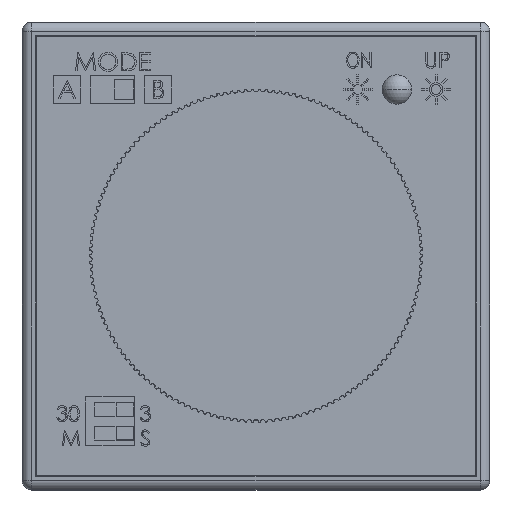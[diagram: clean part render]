
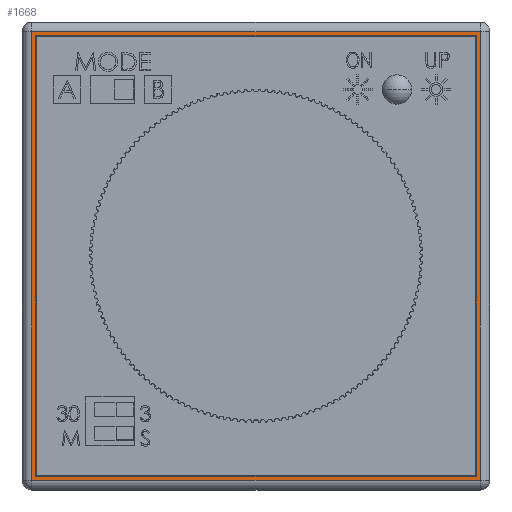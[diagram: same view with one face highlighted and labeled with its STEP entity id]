
A CAD part, top view. The second image highlights one B-rep face of the part: STEP entity #1668.
In plain terms, the highlighted planar face has unit normal (0, 0, 1).
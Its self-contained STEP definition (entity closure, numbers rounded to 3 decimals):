
#1668 = ADVANCED_FACE ( 'NONE', ( #63001, #63006 ), #44103, .F. ) ;
#20911 = ORIENTED_EDGE ( 'NONE', *, *, #41637, .T. ) ;
#20912 = ORIENTED_EDGE ( 'NONE', *, *, #41636, .T. ) ;
#20913 = ORIENTED_EDGE ( 'NONE', *, *, #41638, .T. ) ;
#20914 = ORIENTED_EDGE ( 'NONE', *, *, #41634, .T. ) ;
#20915 = ORIENTED_EDGE ( 'NONE', *, *, #41633, .F. ) ;
#20916 = ORIENTED_EDGE ( 'NONE', *, *, #41632, .F. ) ;
#20917 = ORIENTED_EDGE ( 'NONE', *, *, #41635, .F. ) ;
#20918 = ORIENTED_EDGE ( 'NONE', *, *, #41631, .F. ) ;
#33527 = VERTEX_POINT ( 'NONE', #53557 ) ;
#33528 = VERTEX_POINT ( 'NONE', #53558 ) ;
#33530 = VERTEX_POINT ( 'NONE', #53560 ) ;
#33532 = VERTEX_POINT ( 'NONE', #53562 ) ;
#33533 = VERTEX_POINT ( 'NONE', #53563 ) ;
#33534 = VERTEX_POINT ( 'NONE', #53564 ) ;
#33535 = VERTEX_POINT ( 'NONE', #53565 ) ;
#33536 = VERTEX_POINT ( 'NONE', #53566 ) ;
#34233 = EDGE_LOOP ( 'NONE', ( #20911, #20913, #20912, #20914 ) ) ;
#34234 = EDGE_LOOP ( 'NONE', ( #20915, #20917, #20916, #20918 ) ) ;
#41631 = EDGE_CURVE ( 'NONE', #33533, #33536, #55922, .T. ) ;
#41632 = EDGE_CURVE ( 'NONE', #33536, #33535, #55925, .T. ) ;
#41633 = EDGE_CURVE ( 'NONE', #33532, #33533, #55928, .T. ) ;
#41634 = EDGE_CURVE ( 'NONE', #33534, #33527, #55931, .T. ) ;
#41635 = EDGE_CURVE ( 'NONE', #33535, #33532, #55934, .T. ) ;
#41636 = EDGE_CURVE ( 'NONE', #33530, #33534, #55937, .T. ) ;
#41637 = EDGE_CURVE ( 'NONE', #33527, #33528, #55940, .T. ) ;
#41638 = EDGE_CURVE ( 'NONE', #33528, #33530, #55943, .T. ) ;
#44103 = PLANE ( 'NONE',  #63004 ) ;
#44104 = CARTESIAN_POINT ( 'NONE',  ( 0., 0., 5.4 ) ) ;
#44105 = DIRECTION ( 'NONE',  ( 0., 0., -1. ) ) ;
#44106 = DIRECTION ( 'NONE',  ( -1., 0., 0. ) ) ;
#49260 = VECTOR ( 'NONE', #55924, 1000. ) ;
#49261 = VECTOR ( 'NONE', #55927, 1000. ) ;
#49262 = VECTOR ( 'NONE', #55930, 1000. ) ;
#49263 = VECTOR ( 'NONE', #55933, 1000. ) ;
#49264 = VECTOR ( 'NONE', #55936, 1000. ) ;
#49265 = VECTOR ( 'NONE', #55939, 1000. ) ;
#49266 = VECTOR ( 'NONE', #55942, 1000. ) ;
#49267 = VECTOR ( 'NONE', #55945, 1000. ) ;
#53557 = CARTESIAN_POINT ( 'NONE',  ( -22.9, 22.9, 5.4 ) ) ;
#53558 = CARTESIAN_POINT ( 'NONE',  ( -22.9, -22.9, 5.4 ) ) ;
#53560 = CARTESIAN_POINT ( 'NONE',  ( 22.9, -22.9, 5.4 ) ) ;
#53562 = CARTESIAN_POINT ( 'NONE',  ( 22.5, -22.5, 5.4 ) ) ;
#53563 = CARTESIAN_POINT ( 'NONE',  ( 22.5, 22.5, 5.4 ) ) ;
#53564 = CARTESIAN_POINT ( 'NONE',  ( 22.9, 22.9, 5.4 ) ) ;
#53565 = CARTESIAN_POINT ( 'NONE',  ( -22.5, -22.5, 5.4 ) ) ;
#53566 = CARTESIAN_POINT ( 'NONE',  ( -22.5, 22.5, 5.4 ) ) ;
#55922 = LINE ( 'NONE', #55923, #49260 ) ;
#55923 = CARTESIAN_POINT ( 'NONE',  ( 22.5, 22.5, 5.4 ) ) ;
#55924 = DIRECTION ( 'NONE',  ( -1., 0., 0. ) ) ;
#55925 = LINE ( 'NONE', #55926, #49261 ) ;
#55926 = CARTESIAN_POINT ( 'NONE',  ( -22.5, 22.5, 5.4 ) ) ;
#55927 = DIRECTION ( 'NONE',  ( 0., -1., 0. ) ) ;
#55928 = LINE ( 'NONE', #55929, #49262 ) ;
#55929 = CARTESIAN_POINT ( 'NONE',  ( 22.5, -22.5, 5.4 ) ) ;
#55930 = DIRECTION ( 'NONE',  ( 0., 1., 0. ) ) ;
#55931 = LINE ( 'NONE', #55932, #49263 ) ;
#55932 = CARTESIAN_POINT ( 'NONE',  ( 0., 22.9, 5.4 ) ) ;
#55933 = DIRECTION ( 'NONE',  ( -1., 0., 0. ) ) ;
#55934 = LINE ( 'NONE', #55935, #49264 ) ;
#55935 = CARTESIAN_POINT ( 'NONE',  ( -22.5, -22.5, 5.4 ) ) ;
#55936 = DIRECTION ( 'NONE',  ( 1., 0., 0. ) ) ;
#55937 = LINE ( 'NONE', #55938, #49265 ) ;
#55938 = CARTESIAN_POINT ( 'NONE',  ( 22.9, 0., 5.4 ) ) ;
#55939 = DIRECTION ( 'NONE',  ( 0., 1., 0. ) ) ;
#55940 = LINE ( 'NONE', #55941, #49266 ) ;
#55941 = CARTESIAN_POINT ( 'NONE',  ( -22.9, 0., 5.4 ) ) ;
#55942 = DIRECTION ( 'NONE',  ( 0., -1., 0. ) ) ;
#55943 = LINE ( 'NONE', #55944, #49267 ) ;
#55944 = CARTESIAN_POINT ( 'NONE',  ( 0., -22.9, 5.4 ) ) ;
#55945 = DIRECTION ( 'NONE',  ( 1., 0., 0. ) ) ;
#63001 = FACE_OUTER_BOUND ( 'NONE', #34233, .T. ) ;
#63004 = AXIS2_PLACEMENT_3D ( 'NONE', #44104, #44105, #44106 ) ;
#63006 = FACE_BOUND ( 'NONE', #34234, .T. ) ;
